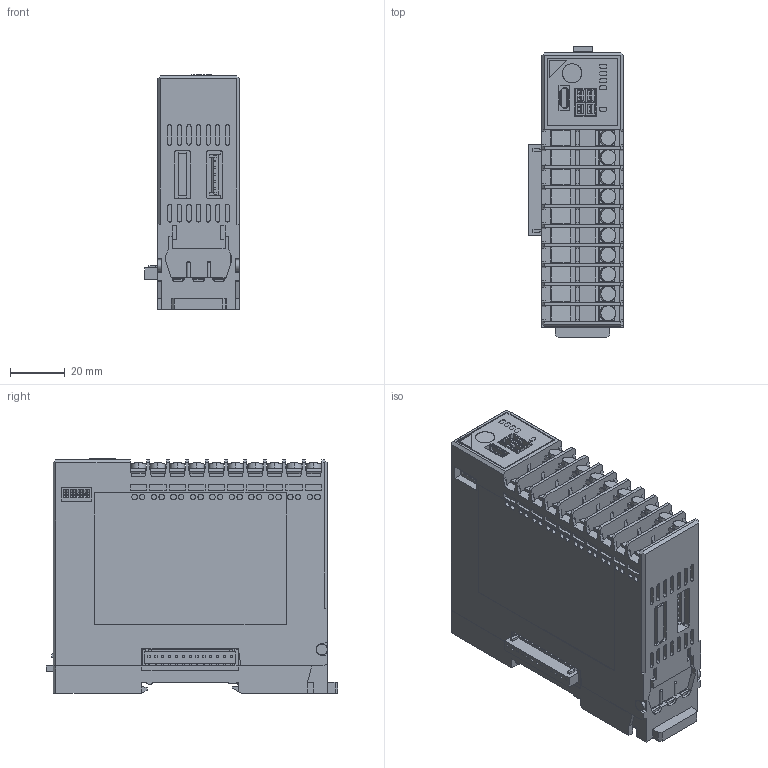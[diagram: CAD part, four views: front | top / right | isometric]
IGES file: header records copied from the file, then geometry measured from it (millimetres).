
Start section: SolidWorks IGES file using analytic representation for surfaces
Global section: file name: \\Mecha-dt\data\mecha_3d\Q\Q僔儕乕僘\QTC1-2\D20-021\HP_3D\QTC1-20T_iges\QTC1-20T_230515.IGS; native system: SolidWorks 2022; preprocessor: SolidWorks 2022; author: soyama; date: 230515.162725; units: millimetre
Bounding box: 34.6 x 106.3 x 85.6 mm (x, y, z)
Surface area: 50314.3 mm2 (no closed solid volume)
Topology: 0 solids, 0 shells, 2042 faces, 16782 edges, 16780 vertices
Faces by surface type: bspline 1667, revolution 375
